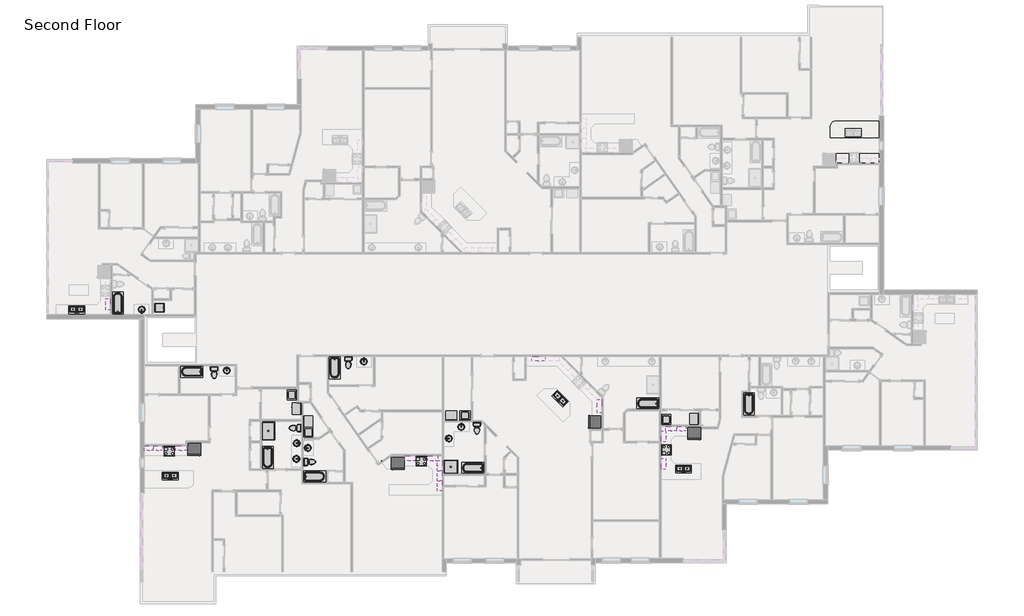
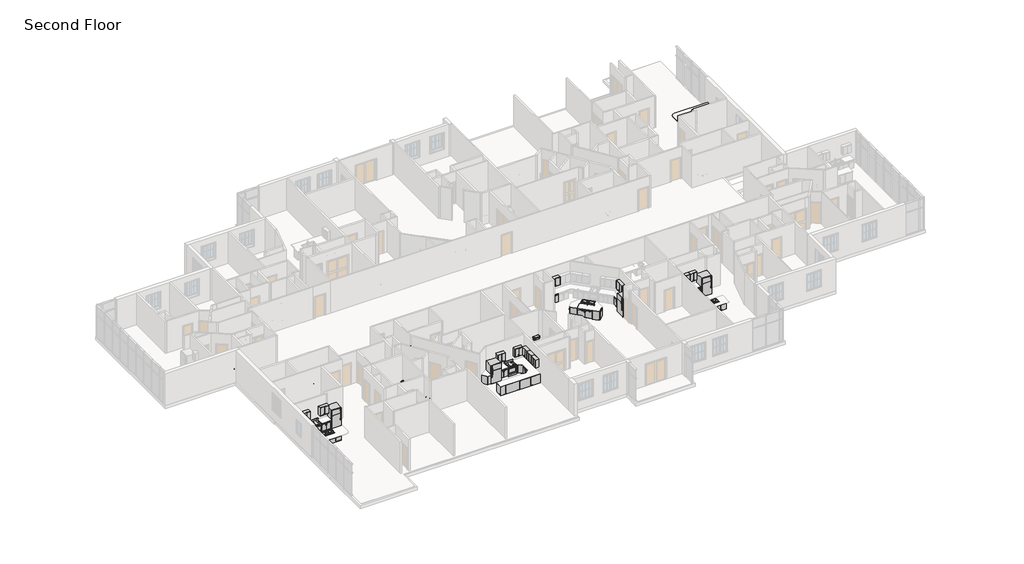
# One storey, part 14 of 17: 63 furniture elements, 27 flow terminals, 16 proxies, 2 slabs.
"""IFC4 building model written with IfcOpenShell, lengths in millimetres."""

from ifc_helpers import new_model, si_unit, point, frame, frame_2d, origin, place, context, project, spatial, polyline, circle_curve, trimmed, segment, composite_curve, outline, extrude, transform, mapped, element, save
from components import proxy_6b4a07a9, proxy_fbb4c072, proxy_93150df1, proxy_9109806d, proxy_718fa39f, proxy_f3e01b1d, flow_terminal_54cced83, flow_terminal_5dba0d75, flow_terminal_a53be723, flow_terminal_d49f872f, toilet_domestic_3d_toilet_domestic_3d_f7549cf7, toilet_domestic_3d_toilet_domestic_3d_183bbd19, tub_rectangular_3d_tub_rectangular_3d_72a4d900, tub_rectangular_3d_tub_rectangular_3d_cbc2c449, furniture_0fc2bd2a, furniture_337523c0, furniture_6e8794dd, furniture_07bc9410, furniture_6ace90bf, furniture_b282fead, furniture_6a014568, furniture_338da5bd, furniture_b74d3f52, furniture_7de88fd5, furniture_695a55eb, furniture_b6fbc004, furniture_b4094f2d, furniture_07c0da44, furniture_bfd559e3, base_cabinet_filler_base_cabinet_filler_dff9ed13, base_cabinet_filler_base_cabinet_filler_01d9e414, base_cabinet_filler_base_cabinet_filler_890d7b95, base_cabinet_filler_base_cabinet_filler_ec835e29, base_cabinet_filler_base_cabinet_filler_83579e99, base_cabinet_filler_base_cabinet_filler_783ad0b1, base_cabinet_filler_base_cabinet_filler_ca2a3ea1, furniture_de2c603d, furniture_a8c34398, furniture_09d05a5b, furniture_b1f16c95, furniture_c6a3367d, furniture_9117db5d, furniture_b34976c1

model = new_model("IFC4")

# Units and contexts
model_context = context("Model", 3, world=origin())
ifc_project = project(units=[si_unit("LENGTHUNIT", "METRE", prefix="MILLI")], contexts=[model_context])

# Site, building, storey
site = spatial("IfcSite", under=ifc_project)
building = spatial("IfcBuilding", under=site)
storey = spatial("IfcBuildingStorey", under=building, Name="Second Floor", Elevation=3048.0)

# Proxies
placement = place(None, origin())
proxy_shape = proxy_6b4a07a9(model_context)
element("IfcBuildingElementProxy", 1, Name="Dryer : 30\" x 25\" x 35\"", ObjectType="Dryer : 30\" x 25\" x 35\"", at=placement, inside=storey, context=model_context, shape_type="MappedRepresentation", body=[
    mapped(proxy_shape, transform((44173.5487851, -8537.825475, 3048.0), x_axis=(0.0, -1.0, 0.0), y_axis=(1.0, 0.0, 0.0), z_axis=(0.0, 0.0, 1.0))),
])
element("IfcBuildingElementProxy", 2, Name="Dryer : 30\" x 25\" x 35\"", ObjectType="Dryer : 30\" x 25\" x 35\"", at=placement, inside=storey, context=model_context, shape_type="MappedRepresentation", body=[
    mapped(proxy_shape, transform((28406.7740425, -8419.0812648, 3048.0), x_axis=(-1.0, 0.0, 0.0), y_axis=(0.0, -1.0, 0.0), z_axis=(0.0, 0.0, 1.0))),
])
element("IfcBuildingElementProxy", 3, Name="Dryer : 30\" x 25\" x 35\"", ObjectType="Dryer : 30\" x 25\" x 35\"", at=placement, inside=storey, context=model_context, shape_type="MappedRepresentation", body=[
    mapped(proxy_shape, transform((18584.1801376, -9524.4003876, 3048.0), x_axis=(0.0, 1.0, 0.0), y_axis=(-1.0, 0.0, 0.0), z_axis=(0.0, 0.0, 1.0))),
])
element("IfcBuildingElementProxy", 4, Name="Dryer : 30\" x 25\" x 35\"", ObjectType="Dryer : 30\" x 25\" x 35\"", at=placement, inside=storey, context=model_context, shape_type="MappedRepresentation", body=[
    mapped(proxy_shape, transform((17205.55813, -7837.3845163, 3048.0), x_axis=(0.0, -1.0, 0.0), y_axis=(1.0, 0.0, 0.0), z_axis=(0.0, 0.0, 1.0))),
])
proxy_2_shape = proxy_fbb4c072(model_context)
element("IfcBuildingElementProxy", 5, Name="Range : 30\" x 26\"", ObjectType="Range : 30\" x 26\"", at=placement, inside=storey, context=model_context, shape_type="MappedRepresentation", body=[
    mapped(proxy_2_shape, transform((8484.0058728, -11454.5493344, 3048.0), x_axis=(1.0, 0.0, 0.0), y_axis=(0.0, 1.0, 0.0), z_axis=(0.0, 0.0, 1.0))),
])
element("IfcBuildingElementProxy", 6, Name="Range : 30\" x 26\"", ObjectType="Range : 30\" x 26\"", at=placement, inside=storey, context=model_context, shape_type="MappedRepresentation", body=[
    mapped(proxy_2_shape, transform((25568.0760465, -12129.3236347, 3048.0), x_axis=(1.0, 0.0, 0.0), y_axis=(0.0, 1.0, 0.0), z_axis=(0.0, 0.0, 1.0))),
])
element("IfcBuildingElementProxy", 7, Name="Range : 30\" x 26\"", ObjectType="Range : 30\" x 26\"", at=placement, inside=storey, context=model_context, shape_type="MappedRepresentation", body=[
    mapped(proxy_2_shape, transform((42884.6470292, -11433.5876998, 3048.0), x_axis=(0.0, 1.0, 0.0), y_axis=(-1.0, 0.0, 0.0), z_axis=(0.0, 0.0, 1.0))),
])
proxy_3_shape = proxy_93150df1(model_context)
element("IfcBuildingElementProxy", 8, Name="Refrigerator : 35\" x 32\" LH", ObjectType="Refrigerator : 35\" x 32\" LH", at=placement, inside=storey, context=model_context, shape_type="MappedRepresentation", body=[
    mapped(proxy_3_shape, transform((24373.0696169, -11939.5714882, 3048.0), x_axis=(1.0, 0.0, 0.0), y_axis=(0.0, 1.0, 0.0), z_axis=(0.0, 0.0, 1.0))),
])
proxy_4_shape = proxy_9109806d(model_context)
element("IfcBuildingElementProxy", 9, Name="Refrigerator : 35\" x 32\" RH", ObjectType="Refrigerator : 35\" x 32\" RH", at=placement, inside=storey, context=model_context, shape_type="MappedRepresentation", body=[
    mapped(proxy_4_shape, transform((10565.2183728, -10998.1775997, 3048.0), x_axis=(1.0, 0.0, 0.0), y_axis=(0.0, 1.0, 0.0), z_axis=(0.0, 0.0, 1.0))),
])
element("IfcBuildingElementProxy", 10, Name="Refrigerator : 35\" x 32\" RH", ObjectType="Refrigerator : 35\" x 32\" RH", at=placement, inside=storey, context=model_context, shape_type="MappedRepresentation", body=[
    mapped(proxy_4_shape, transform((37739.4505062, -9160.9400492, 3048.0), x_axis=(-0.0020172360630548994, -0.9999979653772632, 0.0), y_axis=(0.9999979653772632, -0.0020172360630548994, 0.0), z_axis=(0.0, 0.0, 1.0))),
])
element("IfcBuildingElementProxy", 11, Name="Refrigerator : 35\" x 32\" RH", ObjectType="Refrigerator : 35\" x 32\" RH", at=placement, inside=storey, context=model_context, shape_type="MappedRepresentation", body=[
    mapped(proxy_4_shape, transform((44469.7001082, -9909.0410777, 3048.0), x_axis=(1.0, 0.0, 0.0), y_axis=(0.0, 1.0, 0.0), z_axis=(0.0, 0.0, 1.0))),
])
proxy_5_shape = proxy_718fa39f(model_context)
element("IfcBuildingElementProxy", 12, Name="Washer : 27\" x 25\" x 35\"", ObjectType="Washer : 27\" x 25\" x 35\"", at=placement, inside=storey, context=model_context, shape_type="MappedRepresentation", body=[
    mapped(proxy_5_shape, transform((42820.896594, -9415.6051683, 3048.0), x_axis=(0.0, 1.0, 0.0), y_axis=(-1.0, 0.0, 0.0), z_axis=(0.0, 0.0, 1.0))),
])
element("IfcBuildingElementProxy", 13, Name="Washer : 27\" x 25\" x 35\"", ObjectType="Washer : 27\" x 25\" x 35\"", at=placement, inside=storey, context=model_context, shape_type="MappedRepresentation", body=[
    mapped(proxy_5_shape, transform((29345.0797218, -8454.5927038, 3048.0), x_axis=(-1.0, 0.0, 0.0), y_axis=(0.0, -1.0, 0.0), z_axis=(0.0, 0.0, 1.0))),
])
element("IfcBuildingElementProxy", 14, Name="Washer : 27\" x 25\" x 35\"", ObjectType="Washer : 27\" x 25\" x 35\"", at=placement, inside=storey, context=model_context, shape_type="MappedRepresentation", body=[
    mapped(proxy_5_shape, transform((16924.7421343, -6896.1954628, 3048.0), x_axis=(0.0, -1.0, 0.0), y_axis=(1.0, 0.0, 0.0), z_axis=(0.0, 0.0, 1.0))),
])
element("IfcBuildingElementProxy", 15, Name="Washer : 27\" x 25\" x 35\"", ObjectType="Washer : 27\" x 25\" x 35\"", at=placement, inside=storey, context=model_context, shape_type="MappedRepresentation", body=[
    mapped(proxy_5_shape, transform((18548.6686985, -10291.5635078, 3048.0), x_axis=(0.0, 1.0, 0.0), y_axis=(-1.0, 0.0, 0.0), z_axis=(0.0, 0.0, 1.0))),
])
proxy_6_shape = proxy_f3e01b1d(model_context)
element("IfcBuildingElementProxy", 16, Name="Washer_Dryer_Combo : 24\"", ObjectType="Washer_Dryer_Combo : 24\"", at=placement, inside=storey, context=model_context, shape_type="MappedRepresentation", body=[
    mapped(proxy_6_shape, transform((7781.763642, -1399.896226, 3048.0), x_axis=(0.0, 1.0, 0.0), y_axis=(-1.0, 0.0, 0.0), z_axis=(0.0, 0.0, 1.0))),
])

# Flow terminals
flow_terminal_shape = flow_terminal_54cced83(model_context)
element("IfcFlowTerminal", 17, ObjectType="Shower Base-3D : 36\" x 36\"", at=placement, inside=storey, context=model_context, shape_type="MappedRepresentation", body=[
    mapped(flow_terminal_shape, transform((27964.2865862, -12199.1736347, 3048.0), x_axis=(-1.0, 0.0, 0.0), y_axis=(0.0, -1.0, 0.0), z_axis=(0.0, 0.0, 1.0))),
])
flow_terminal_2_shape = flow_terminal_5dba0d75(model_context)
element("IfcFlowTerminal", 18, ObjectType="Shower Base-3D : 48\" x 34\"", at=placement, inside=storey, context=model_context, shape_type="MappedRepresentation", body=[
    mapped(flow_terminal_2_shape, transform((15583.4691338, -9765.9826248, 3048.0), x_axis=(0.0, -1.0, 0.0), y_axis=(1.0, 0.0, 0.0), z_axis=(0.0, 0.0, 1.0))),
])
flow_terminal_3_shape = flow_terminal_a53be723(model_context)
element("IfcFlowTerminal", 19, ObjectType="Sink Kitchen-Double : 42\" x 21\"", at=placement, inside=storey, context=model_context, shape_type="MappedRepresentation", body=[
    mapped(flow_terminal_3_shape, transform((2610.3896329, -1539.4234679, 3048.0), x_axis=(-1.0, 0.0, 0.0), y_axis=(0.0, -1.0, 0.0), z_axis=(0.0, 0.0, 1.0))),
])
element("IfcFlowTerminal", 20, ObjectType="Sink Kitchen-Double : 42\" x 21\"", at=placement, inside=storey, context=model_context, shape_type="MappedRepresentation", body=[
    mapped(flow_terminal_3_shape, transform((8952.0802897, -12819.6612346, 3048.0), x_axis=(-1.0, 0.0, 0.0), y_axis=(0.0, -1.0, 0.0), z_axis=(0.0, 0.0, 1.0))),
])
element("IfcFlowTerminal", 21, ObjectType="Sink Kitchen-Double : 42\" x 21\"", at=placement, inside=storey, context=model_context, shape_type="MappedRepresentation", body=[
    mapped(flow_terminal_3_shape, transform((35369.4238071, -7586.7342025, 3048.0), x_axis=(-0.7071067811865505, 0.7071067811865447, 0.0), y_axis=(-0.7071067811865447, -0.7071067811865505, 0.0), z_axis=(0.0, 0.0, 1.0))),
])
element("IfcFlowTerminal", 22, ObjectType="Sink Kitchen-Double : 42\" x 21\"", at=placement, inside=storey, context=model_context, shape_type="MappedRepresentation", body=[
    mapped(flow_terminal_3_shape, transform((43757.5862697, -12345.6422987, 3048.0), x_axis=(-1.0, 0.0, 0.0), y_axis=(0.0, -1.0, 0.0), z_axis=(0.0, 0.0, 1.0))),
])
flow_terminal_4_shape = flow_terminal_d49f872f(model_context)
element("IfcFlowTerminal", 23, ObjectType="Sink Vanity-Round : 19\" x 19\"", at=placement, inside=storey, context=model_context, shape_type="MappedRepresentation", body=[
    mapped(flow_terminal_4_shape, transform((7095.9779114, -1446.5547276, 3048.0), x_axis=(-1.0, 0.0, 0.0), y_axis=(0.0, -1.0, 0.0), z_axis=(0.0, 0.0, 1.0))),
])
element("IfcFlowTerminal", 24, ObjectType="Sink Vanity-Round : 19\" x 19\"", at=placement, inside=storey, context=model_context, shape_type="MappedRepresentation", body=[
    mapped(flow_terminal_4_shape, transform((12671.2282401, -5751.7512482, 3048.0), x_axis=(1.0, 0.0, 0.0), y_axis=(0.0, 1.0, 0.0), z_axis=(0.0, 0.0, 1.0))),
])
element("IfcFlowTerminal", 25, ObjectType="Sink Vanity-Round : 19\" x 19\"", at=placement, inside=storey, context=model_context, shape_type="MappedRepresentation", body=[
    mapped(flow_terminal_4_shape, transform((17420.7936513, -10494.2975939, 3048.0), x_axis=(0.0, -1.0, 0.0), y_axis=(1.0, 0.0, 0.0), z_axis=(0.0, 0.0, 1.0))),
])
element("IfcFlowTerminal", 26, ObjectType="Sink Vanity-Round : 19\" x 19\"", at=placement, inside=storey, context=model_context, shape_type="MappedRepresentation", body=[
    mapped(flow_terminal_4_shape, transform((17409.016646, -11561.0975939, 3048.0), x_axis=(0.0, -1.0, 0.0), y_axis=(1.0, 0.0, 0.0), z_axis=(0.0, 0.0, 1.0))),
])
element("IfcFlowTerminal", 27, ObjectType="Sink Vanity-Round : 19\" x 19\"", at=placement, inside=storey, context=model_context, shape_type="MappedRepresentation", body=[
    mapped(flow_terminal_4_shape, transform((21972.1515274, -5140.3059377, 3048.0), x_axis=(1.0, 0.0, 0.0), y_axis=(0.0, 1.0, 0.0), z_axis=(0.0, 0.0, 1.0))),
])
element("IfcFlowTerminal", 28, ObjectType="Sink Vanity-Round : 19\" x 19\"", at=placement, inside=storey, context=model_context, shape_type="MappedRepresentation", body=[
    mapped(flow_terminal_4_shape, transform((27911.2708925, -10375.2194838, 3048.0), x_axis=(0.001247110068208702, 0.9999992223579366, 0.0), y_axis=(-0.9999992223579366, 0.001247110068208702, 0.0), z_axis=(0.0, 0.0, 1.0))),
])
element("IfcFlowTerminal", 29, ObjectType="Sink Vanity-Round : 19\" x 19\"", at=placement, inside=storey, context=model_context, shape_type="MappedRepresentation", body=[
    mapped(flow_terminal_4_shape, transform((28570.2652609, -9561.5358358, 3048.0), x_axis=(0.9999968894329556, -0.0024942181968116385, 0.0), y_axis=(0.0024942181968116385, 0.9999968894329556, 0.0), z_axis=(0.0, 0.0, 1.0))),
])
element("IfcFlowTerminal", 30, ObjectType="Sink Vanity-Round : 19\" x 19\"", at=placement, inside=storey, context=model_context, shape_type="MappedRepresentation", body=[
    mapped(flow_terminal_4_shape, transform((18352.0332752, -11016.4921873, 3048.0), x_axis=(0.0, 1.0, 0.0), y_axis=(-1.0, 0.0, 0.0), z_axis=(0.0, 0.0, 1.0))),
])
toilet_domestic_3d_toilet_domestic_3d_shape = toilet_domestic_3d_toilet_domestic_3d_f7549cf7(model_context)
toilet_domestic_3d_toilet_domestic_3d_2_shape = toilet_domestic_3d_toilet_domestic_3d_183bbd19(model_context)
element("IfcFlowTerminal", 31, ObjectType="Toilet-Domestic-3D : Toilet-Domestic-3D", at=placement, inside=storey, context=model_context, shape_type="MappedRepresentation", body=[
    mapped(toilet_domestic_3d_toilet_domestic_3d_shape, transform((11916.3561509, -5905.1826248, 3048.0), x_axis=(1.0, 0.0, 0.0), y_axis=(0.0, 1.0, 0.0), z_axis=(0.0, 0.0, 1.0))),
    mapped(toilet_domestic_3d_toilet_domestic_3d_2_shape, transform((11916.3561509, -5905.1826248, 3048.0), x_axis=(1.0, 0.0, 0.0), y_axis=(0.0, 1.0, 0.0), z_axis=(0.0, 0.0, 1.0))),
])
element("IfcFlowTerminal", 32, ObjectType="Toilet-Domestic-3D : Toilet-Domestic-3D", at=placement, inside=storey, context=model_context, shape_type="MappedRepresentation", body=[
    mapped(toilet_domestic_3d_toilet_domestic_3d_shape, transform((17301.7543863, -9562.7826248, 3048.0), x_axis=(0.0, -1.0, 0.0), y_axis=(1.0, 0.0, 0.0), z_axis=(0.0, 0.0, 1.0))),
    mapped(toilet_domestic_3d_toilet_domestic_3d_2_shape, transform((17301.7543863, -9562.7826248, 3048.0), x_axis=(0.0, -1.0, 0.0), y_axis=(1.0, 0.0, 0.0), z_axis=(0.0, 0.0, 1.0))),
])
element("IfcFlowTerminal", 33, ObjectType="Toilet-Domestic-3D : Toilet-Domestic-3D", at=placement, inside=storey, context=model_context, shape_type="MappedRepresentation", body=[
    mapped(toilet_domestic_3d_toilet_domestic_3d_shape, transform((18495.5543863, -11861.2719726, 3048.0), x_axis=(0.0, 1.0, 0.0), y_axis=(-1.0, 0.0, 0.0), z_axis=(0.0, 0.0, 1.0))),
    mapped(toilet_domestic_3d_toilet_domestic_3d_2_shape, transform((18495.5543863, -11861.2719726, 3048.0), x_axis=(0.0, 1.0, 0.0), y_axis=(-1.0, 0.0, 0.0), z_axis=(0.0, 0.0, 1.0))),
])
element("IfcFlowTerminal", 34, ObjectType="Toilet-Domestic-3D : Toilet-Domestic-3D", at=placement, inside=storey, context=model_context, shape_type="MappedRepresentation", body=[
    mapped(toilet_domestic_3d_toilet_domestic_3d_shape, transform((21010.1543863, -5232.0826248, 3048.0), x_axis=(1.0, 0.0, 0.0), y_axis=(0.0, 1.0, 0.0), z_axis=(0.0, 0.0, 1.0))),
    mapped(toilet_domestic_3d_toilet_domestic_3d_2_shape, transform((21010.1543863, -5232.0826248, 3048.0), x_axis=(1.0, 0.0, 0.0), y_axis=(0.0, 1.0, 0.0), z_axis=(0.0, 0.0, 1.0))),
])
element("IfcFlowTerminal", 35, ObjectType="Toilet-Domestic-3D : Toilet-Domestic-3D", at=placement, inside=storey, context=model_context, shape_type="MappedRepresentation", body=[
    mapped(toilet_domestic_3d_toilet_domestic_3d_shape, transform((29733.3816535, -9682.6542097, 3048.0), x_axis=(1.0, 0.0, 0.0), y_axis=(0.0, 1.0, 0.0), z_axis=(0.0, 0.0, 1.0))),
    mapped(toilet_domestic_3d_toilet_domestic_3d_2_shape, transform((29733.3816535, -9682.6542097, 3048.0), x_axis=(1.0, 0.0, 0.0), y_axis=(0.0, 1.0, 0.0), z_axis=(0.0, 0.0, 1.0))),
])
tub_rectangular_3d_tub_rectangular_3d_shape = tub_rectangular_3d_tub_rectangular_3d_72a4d900(model_context)
element("IfcFlowTerminal", 36, ObjectType="Tub-Rectangular-3D : Tub-Rectangular-3D", at=placement, inside=storey, context=model_context, shape_type="MappedRepresentation", body=[
    mapped(tub_rectangular_3d_tub_rectangular_3d_shape, transform((47733.9460269, -8284.6757706, 3048.0), x_axis=(0.0, -1.0, 0.0), y_axis=(1.0, 0.0, 0.0), z_axis=(0.0, 0.0, 1.0))),
])
element("IfcFlowTerminal", 37, ObjectType="Tub-Rectangular-3D : Tub-Rectangular-3D", at=placement, inside=storey, context=model_context, shape_type="MappedRepresentation", body=[
    mapped(tub_rectangular_3d_tub_rectangular_3d_shape, transform((19641.0094272, -5812.794765, 3048.0), x_axis=(0.0, -1.0, 0.0), y_axis=(1.0, 0.0, 0.0), z_axis=(0.0, 0.0, 1.0))),
])
element("IfcFlowTerminal", 38, ObjectType="Tub-Rectangular-3D : Tub-Rectangular-3D", at=placement, inside=storey, context=model_context, shape_type="MappedRepresentation", body=[
    mapped(tub_rectangular_3d_tub_rectangular_3d_shape, transform((19051.8674743, -13293.3204597, 3048.0), x_axis=(1.0, 0.0, 0.0), y_axis=(0.0, 1.0, 0.0), z_axis=(0.0, 0.0, 1.0))),
])
element("IfcFlowTerminal", 39, ObjectType="Tub-Rectangular-3D : Tub-Rectangular-3D", at=placement, inside=storey, context=model_context, shape_type="MappedRepresentation", body=[
    mapped(tub_rectangular_3d_tub_rectangular_3d_shape, transform((15100.67709, -11904.7523031, 3048.0), x_axis=(0.0, -1.0, 0.0), y_axis=(1.0, 0.0, 0.0), z_axis=(0.0, 0.0, 1.0))),
])
element("IfcFlowTerminal", 40, ObjectType="Tub-Rectangular-3D : Tub-Rectangular-3D", at=placement, inside=storey, context=model_context, shape_type="MappedRepresentation", body=[
    mapped(tub_rectangular_3d_tub_rectangular_3d_shape, transform((10041.086734, -5294.5871067, 3048.0), x_axis=(-1.0, 0.0, 0.0), y_axis=(0.0, -1.0, 0.0), z_axis=(0.0, 0.0, 1.0))),
])
tub_rectangular_3d_tub_rectangular_3d_2_shape = tub_rectangular_3d_tub_rectangular_3d_cbc2c449(model_context)
element("IfcFlowTerminal", 41, ObjectType="Tub-Rectangular-3D : Tub-Rectangular-3D", at=placement, inside=storey, context=model_context, shape_type="MappedRepresentation", body=[
    mapped(tub_rectangular_3d_tub_rectangular_3d_2_shape, transform((4937.8503923, -742.3159003, 3048.0), x_axis=(0.0, 1.0, 0.0), y_axis=(-1.0, 0.0, 0.0), z_axis=(0.0, 0.0, 1.0))),
])
element("IfcFlowTerminal", 42, ObjectType="Tub-Rectangular-3D : Tub-Rectangular-3D", at=placement, inside=storey, context=model_context, shape_type="MappedRepresentation", body=[
    mapped(tub_rectangular_3d_tub_rectangular_3d_2_shape, transform((29107.1010669, -12707.1736347, 3048.0), x_axis=(-1.0, 0.0, 0.0), y_axis=(0.0, -1.0, 0.0), z_axis=(0.0, 0.0, 1.0))),
])
element("IfcFlowTerminal", 43, ObjectType="Tub-Rectangular-3D : Tub-Rectangular-3D", at=placement, inside=storey, context=model_context, shape_type="MappedRepresentation", body=[
    mapped(tub_rectangular_3d_tub_rectangular_3d_2_shape, transform((40980.2940605, -8335.220689, 3048.0), x_axis=(-1.0, 0.0, 0.0), y_axis=(0.0, -1.0, 0.0), z_axis=(0.0, 0.0, 1.0))),
])

# Furniture
furniture_shape = furniture_0fc2bd2a(model_context)
element("IfcFurniture", 44, ObjectType="Base Cabinet-Single Door & Drawer : 15\"'", at=placement, inside=storey, context=model_context, shape_type="MappedRepresentation", body=[
    mapped(furniture_shape, transform((7393.028754, -13101.4066357, 3048.0), x_axis=(-1.0, 0.0, 0.0), y_axis=(0.0, -1.0, 0.0), z_axis=(0.0, 0.0, 1.0))),
])
furniture_2_shape = furniture_337523c0(model_context)
element("IfcFurniture", 45, ObjectType="Base Cabinet-Single Door & Drawer : 12\"", at=placement, inside=storey, context=model_context, shape_type="MappedRepresentation", body=[
    mapped(furniture_2_shape, transform((42224.2470292, -10500.4499949, 3048.0), x_axis=(0.0, -1.0, 0.0), y_axis=(1.0, 0.0, 0.0), z_axis=(0.0, 0.0, 1.0))),
])
furniture_3_shape = furniture_6e8794dd(model_context)
element("IfcFurniture", 46, ObjectType="Base Cabinet-Single Door & Drawer : 12\"", at=placement, inside=storey, context=model_context, shape_type="MappedRepresentation", body=[
    mapped(furniture_3_shape, transform((4880.7003923, -765.2085211, 3048.0), x_axis=(0.0, -1.0, 0.0), y_axis=(1.0, 0.0, 0.0), z_axis=(0.0, 0.0, 1.0))),
])
element("IfcFurniture", 47, ObjectType="Base Cabinet-Single Door & Drawer : 12\"", at=placement, inside=storey, context=model_context, shape_type="MappedRepresentation", body=[
    mapped(furniture_3_shape, transform((42224.2470292, -11604.7254047, 3048.0), x_axis=(0.0, 1.0, 0.0), y_axis=(-1.0, 0.0, 0.0), z_axis=(0.0, 0.0, 1.0))),
])
furniture_4_shape = furniture_07bc9410(model_context)
element("IfcFurniture", 48, ObjectType="Base Cabinet-Single Door & Drawer : 18\"", at=placement, inside=storey, context=model_context, shape_type="MappedRepresentation", body=[
    mapped(furniture_4_shape, transform((7423.2435778, -10772.1368662, 3048.0), x_axis=(-1.0, 0.0, 0.0), y_axis=(0.0, -1.0, 0.0), z_axis=(0.0, 0.0, 1.0))),
])
furniture_5_shape = furniture_6ace90bf(model_context)
element("IfcFurniture", 49, ObjectType="Base Cabinet-Single Door & Drawer : 18\"", at=placement, inside=storey, context=model_context, shape_type="MappedRepresentation", body=[
    mapped(furniture_5_shape, transform((9793.328754, -13101.4066357, 3048.0), x_axis=(-1.0, 0.0, 0.0), y_axis=(0.0, -1.0, 0.0), z_axis=(0.0, 0.0, 1.0))),
])
element("IfcFurniture", 50, ObjectType="Base Cabinet-Single Door & Drawer : 18\"", at=placement, inside=storey, context=model_context, shape_type="MappedRepresentation", body=[
    mapped(furniture_5_shape, transform((24038.1263728, -14082.7941728, 3048.0), x_axis=(-1.0, 0.0, 0.0), y_axis=(0.0, -1.0, 0.0), z_axis=(0.0, 0.0, 1.0))),
])
furniture_6_shape = furniture_b282fead(model_context)
element("IfcFurniture", 51, ObjectType="Base Cabinet-Single Door & Drawer : 21\"", at=placement, inside=storey, context=model_context, shape_type="MappedRepresentation", body=[
    mapped(furniture_6_shape, transform((44636.9347341, -12652.7876998, 3048.0), x_axis=(-1.0, 0.0, 0.0), y_axis=(0.0, -1.0, 0.0), z_axis=(0.0, 0.0, 1.0))),
])
furniture_7_shape = furniture_6a014568(model_context)
element("IfcFurniture", 52, ObjectType="Base Cabinet-Single Door & Drawer : 24\"", at=placement, inside=storey, context=model_context, shape_type="MappedRepresentation", body=[
    mapped(furniture_7_shape, transform((35343.4218314, -8452.6528289, 3048.0), x_axis=(0.7071067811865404, 0.7071067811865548, 0.0), y_axis=(-0.7071067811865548, 0.7071067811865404, 0.0), z_axis=(0.0, 0.0, 1.0))),
])
element("IfcFurniture", 53, ObjectType="Base Cabinet-Single Door & Drawer : 24\"", at=placement, inside=storey, context=model_context, shape_type="MappedRepresentation", body=[
    mapped(furniture_7_shape, transform((34507.8163602, -7564.0491249, 3048.0), x_axis=(-0.7071067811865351, -0.70710678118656, 0.0), y_axis=(0.70710678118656, -0.7071067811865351, 0.0), z_axis=(0.0, 0.0, 1.0))),
])
furniture_8_shape = furniture_338da5bd(model_context)
element("IfcFurniture", 54, ObjectType="Base Cabinet-Double Door & 2 Drawer : 30\"", at=placement, inside=storey, context=model_context, shape_type="MappedRepresentation", body=[
    mapped(furniture_8_shape, transform((7964.528754, -13101.4066357, 3048.0), x_axis=(-1.0, 0.0, 0.0), y_axis=(0.0, -1.0, 0.0), z_axis=(0.0, 0.0, 1.0))),
])
element("IfcFurniture", 55, ObjectType="Base Cabinet-Double Door & 2 Drawer : 30\"", at=placement, inside=storey, context=model_context, shape_type="MappedRepresentation", body=[
    mapped(furniture_8_shape, transform((27373.7365862, -12755.9564679, 3048.0), x_axis=(0.0, -1.0, 0.0), y_axis=(1.0, 0.0, 0.0), z_axis=(0.0, 0.0, 1.0))),
])
element("IfcFurniture", 56, ObjectType="Base Cabinet-Double Door & 2 Drawer : 30\"", at=placement, inside=storey, context=model_context, shape_type="MappedRepresentation", body=[
    mapped(furniture_8_shape, transform((25173.481912, -11468.9236347, 3048.0), x_axis=(1.0, 0.0, 0.0), y_axis=(0.0, 1.0, 0.0), z_axis=(0.0, 0.0, 1.0))),
])
furniture_9_shape = furniture_b74d3f52(model_context)
element("IfcFurniture", 57, ObjectType="Base Cabinet-Double Door & 2 Drawer : 33\"", at=placement, inside=storey, context=model_context, shape_type="MappedRepresentation", body=[
    mapped(furniture_9_shape, transform((8083.6435778, -10772.1368662, 3048.0), x_axis=(-1.0, 0.0, 0.0), y_axis=(0.0, -1.0, 0.0), z_axis=(0.0, 0.0, 1.0))),
])
furniture_10_shape = furniture_7de88fd5(model_context)
element("IfcFurniture", 58, ObjectType="Base Cabinet-Double Door & 2 Drawer : 33\"", at=placement, inside=storey, context=model_context, shape_type="MappedRepresentation", body=[
    mapped(furniture_10_shape, transform((9646.3681679, -10772.1368662, 3048.0), x_axis=(1.0, 0.0, 0.0), y_axis=(0.0, 1.0, 0.0), z_axis=(0.0, 0.0, 1.0))),
])
element("IfcFurniture", 59, ObjectType="Base Cabinet-Double Door & 2 Drawer : 33\"", at=placement, inside=storey, context=model_context, shape_type="MappedRepresentation", body=[
    mapped(furniture_10_shape, transform((43539.0093243, -9452.3876998, 3048.0), x_axis=(1.0, 0.0, 0.0), y_axis=(0.0, 1.0, 0.0), z_axis=(0.0, 0.0, 1.0))),
])
furniture_11_shape = furniture_695a55eb(model_context)
element("IfcFurniture", 60, ObjectType="Base Cabinet-Double Door & 2 Drawer : 36\"", at=placement, inside=storey, context=model_context, shape_type="MappedRepresentation", body=[
    mapped(furniture_11_shape, transform((1661.5626874, -1846.568869, 3048.0), x_axis=(1.0, 0.0, 0.0), y_axis=(0.0, 1.0, 0.0), z_axis=(0.0, 0.0, 1.0))),
])
element("IfcFurniture", 61, ObjectType="Base Cabinet-Double Door & 2 Drawer : 36\"", at=placement, inside=storey, context=model_context, shape_type="MappedRepresentation", body=[
    mapped(furniture_11_shape, transform((2575.9626874, -1846.568869, 3048.0), x_axis=(1.0, 0.0, 0.0), y_axis=(0.0, 1.0, 0.0), z_axis=(0.0, 0.0, 1.0))),
])
element("IfcFurniture", 62, ObjectType="Base Cabinet-Double Door & 2 Drawer : 36\"", at=placement, inside=storey, context=model_context, shape_type="MappedRepresentation", body=[
    mapped(furniture_11_shape, transform((3490.3626874, -1846.568869, 3048.0), x_axis=(1.0, 0.0, 0.0), y_axis=(0.0, 1.0, 0.0), z_axis=(0.0, 0.0, 1.0))),
])
furniture_12_shape = furniture_b6fbc004(model_context)
element("IfcFurniture", 63, ObjectType="Base Cabinet-Double Door & 2 Drawer : 36\"", at=placement, inside=storey, context=model_context, shape_type="MappedRepresentation", body=[
    mapped(furniture_12_shape, transform((33534.2589917, -4708.5417963, 3048.0), x_axis=(1.0, 0.0, 0.0), y_axis=(0.0, 1.0, 0.0), z_axis=(0.0, 0.0, 1.0))),
])
element("IfcFurniture", 64, ObjectType="Base Cabinet-Double Door & 2 Drawer : 36\"", at=placement, inside=storey, context=model_context, shape_type="MappedRepresentation", body=[
    mapped(furniture_12_shape, transform((38191.5400155, -8246.5337163, 3048.0), x_axis=(0.0, -1.0, 0.0), y_axis=(1.0, 0.0, 0.0), z_axis=(0.0, 0.0, 1.0))),
])
furniture_13_shape = furniture_b4094f2d(model_context)
element("IfcFurniture", 65, ObjectType="Base Cabinet-Double Door & 2 Drawer : 39\"", at=placement, inside=storey, context=model_context, shape_type="MappedRepresentation", body=[
    mapped(furniture_13_shape, transform((25982.7742911, -14082.7941728, 3048.0), x_axis=(-1.0, 0.0, 0.0), y_axis=(0.0, -1.0, 0.0), z_axis=(0.0, 0.0, 1.0))),
])
furniture_14_shape = furniture_07c0da44(model_context)
element("IfcFurniture", 66, ObjectType="Base Cabinet-Double Door & 2 Drawer : 48\"", at=placement, inside=storey, context=model_context, shape_type="MappedRepresentation", body=[
    mapped(furniture_14_shape, transform((8955.128754, -13101.4066357, 3048.0), x_axis=(-1.0, 0.0, 0.0), y_axis=(0.0, -1.0, 0.0), z_axis=(0.0, 0.0, 1.0))),
])
element("IfcFurniture", 67, ObjectType="Base Cabinet-Double Door & 2 Drawer : 48\"", at=placement, inside=storey, context=model_context, shape_type="MappedRepresentation", body=[
    mapped(furniture_14_shape, transform((24876.3263728, -14082.7941728, 3048.0), x_axis=(-1.0, 0.0, 0.0), y_axis=(0.0, -1.0, 0.0), z_axis=(0.0, 0.0, 1.0))),
])
element("IfcFurniture", 68, ObjectType="Base Cabinet-Double Door & 2 Drawer : 48\"", at=placement, inside=storey, context=model_context, shape_type="MappedRepresentation", body=[
    mapped(furniture_14_shape, transform((35154.3948009, -7806.0743882, 3048.0), x_axis=(-0.7071067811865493, 0.7071067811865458, 0.0), y_axis=(-0.7071067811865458, -0.7071067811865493, 0.0), z_axis=(0.0, 0.0, 1.0))),
])
element("IfcFurniture", 69, ObjectType="Base Cabinet-Double Door & 2 Drawer : 48\"", at=placement, inside=storey, context=model_context, shape_type="MappedRepresentation", body=[
    mapped(furniture_14_shape, transform((35127.8956845, -7779.5752718, 3048.0), x_axis=(0.7071067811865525, -0.7071067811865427, 0.0), y_axis=(0.7071067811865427, 0.7071067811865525, 0.0), z_axis=(0.0, 0.0, 1.0))),
])
element("IfcFurniture", 70, ObjectType="Base Cabinet-Double Door & 2 Drawer : 48\"", at=placement, inside=storey, context=model_context, shape_type="MappedRepresentation", body=[
    mapped(furniture_14_shape, transform((43760.6347341, -12652.7876998, 3048.0), x_axis=(-1.0, 0.0, 0.0), y_axis=(0.0, -1.0, 0.0), z_axis=(0.0, 0.0, 1.0))),
])
furniture_15_shape = furniture_bfd559e3(model_context)
element("IfcFurniture", 71, ObjectType="Base Cabinet-Corner Unit-Angled : 36\"", at=placement, inside=storey, context=model_context, shape_type="MappedRepresentation", body=[
    mapped(furniture_15_shape, transform((4880.7003923, -1319.8311641, 3048.0), x_axis=(0.0, -1.0, 0.0), y_axis=(1.0, 0.0, 0.0), z_axis=(0.0, 0.0, 1.0))),
])
element("IfcFurniture", 72, ObjectType="Base Cabinet-Corner Unit-Angled : 36\"", at=placement, inside=storey, context=model_context, shape_type="MappedRepresentation", body=[
    mapped(furniture_15_shape, transform((27373.7365862, -13556.0564679, 3048.0), x_axis=(0.0, -1.0, 0.0), y_axis=(1.0, 0.0, 0.0), z_axis=(0.0, 0.0, 1.0))),
])
element("IfcFurniture", 73, ObjectType="Base Cabinet-Corner Unit-Angled : 36\"", at=placement, inside=storey, context=model_context, shape_type="MappedRepresentation", body=[
    mapped(furniture_15_shape, transform((26846.9988812, -11468.9236347, 3048.0), x_axis=(1.0, 0.0, 0.0), y_axis=(0.0, 1.0, 0.0), z_axis=(0.0, 0.0, 1.0))),
])
element("IfcFurniture", 74, ObjectType="Base Cabinet-Corner Unit-Angled : 36\"", at=placement, inside=storey, context=model_context, shape_type="MappedRepresentation", body=[
    mapped(furniture_15_shape, transform((42224.2470292, -9979.1254047, 3048.0), x_axis=(0.0, 1.0, 0.0), y_axis=(-1.0, 0.0, 0.0), z_axis=(0.0, 0.0, 1.0))),
])
element("IfcFurniture", 75, ObjectType="Base Cabinet-Corner Unit-Angled : 36\"", at=placement, inside=storey, context=model_context, shape_type="MappedRepresentation", body=[
    mapped(furniture_15_shape, transform((42744.6347341, -12652.7876998, 3048.0), x_axis=(-1.0, 0.0, 0.0), y_axis=(0.0, -1.0, 0.0), z_axis=(0.0, 0.0, 1.0))),
])
base_cabinet_filler_base_cabinet_filler_shape = base_cabinet_filler_base_cabinet_filler_dff9ed13(model_context)
element("IfcFurniture", 76, ObjectType="Base Cabinet-Filler : Base Cabinet-Filler", at=placement, inside=storey, context=model_context, shape_type="MappedRepresentation", body=[
    mapped(base_cabinet_filler_base_cabinet_filler_shape, transform((7620.7181679, -10772.1368662, 3048.0), x_axis=(1.0, 0.0, 0.0), y_axis=(0.0, 1.0, 0.0), z_axis=(0.0, 0.0, 1.0))),
])
element("IfcFurniture", 77, ObjectType="Base Cabinet-Filler : Base Cabinet-Filler", at=placement, inside=storey, context=model_context, shape_type="MappedRepresentation", body=[
    mapped(base_cabinet_filler_base_cabinet_filler_shape, transform((27373.7365862, -13143.3064679, 3048.0), x_axis=(0.0, -1.0, 0.0), y_axis=(1.0, 0.0, 0.0), z_axis=(0.0, 0.0, 1.0))),
])
base_cabinet_filler_base_cabinet_filler_2_shape = base_cabinet_filler_base_cabinet_filler_01d9e414(model_context)
element("IfcFurniture", 78, ObjectType="Base Cabinet-Filler : Base Cabinet-Filler", at=placement, inside=storey, context=model_context, shape_type="MappedRepresentation", body=[
    mapped(base_cabinet_filler_base_cabinet_filler_2_shape, transform((10086.8994179, -10772.1368662, 3048.0), x_axis=(1.0, 0.0, 0.0), y_axis=(0.0, 1.0, 0.0), z_axis=(0.0, 0.0, 1.0))),
])
base_cabinet_filler_base_cabinet_filler_3_shape = base_cabinet_filler_base_cabinet_filler_890d7b95(model_context)
element("IfcFurniture", 79, ObjectType="Base Cabinet-Filler : Base Cabinet-Filler", at=placement, inside=storey, context=model_context, shape_type="MappedRepresentation", body=[
    mapped(base_cabinet_filler_base_cabinet_filler_3_shape, transform((26375.9686114, -11468.9236347, 3048.0), x_axis=(1.0, 0.0, 0.0), y_axis=(0.0, 1.0, 0.0), z_axis=(0.0, 0.0, 1.0))),
])
base_cabinet_filler_base_cabinet_filler_4_shape = base_cabinet_filler_base_cabinet_filler_ec835e29(model_context)
element("IfcFurniture", 80, ObjectType="Base Cabinet-Filler : Base Cabinet-Filler", at=placement, inside=storey, context=model_context, shape_type="MappedRepresentation", body=[
    mapped(base_cabinet_filler_base_cabinet_filler_4_shape, transform((27373.7365862, -12369.7711988, 3048.0), x_axis=(0.0, -1.0, 0.0), y_axis=(1.0, 0.0, 0.0), z_axis=(0.0, 0.0, 1.0))),
])
base_cabinet_filler_base_cabinet_filler_5_shape = base_cabinet_filler_base_cabinet_filler_83579e99(model_context)
element("IfcFurniture", 81, ObjectType="Base Cabinet-Filler : Base Cabinet-Filler", at=placement, inside=storey, context=model_context, shape_type="MappedRepresentation", body=[
    mapped(base_cabinet_filler_base_cabinet_filler_5_shape, transform((43985.4608638, -9452.3876998, 3048.0), x_axis=(1.0, 0.0, 0.0), y_axis=(0.0, 1.0, 0.0), z_axis=(0.0, 0.0, 1.0))),
])
base_cabinet_filler_base_cabinet_filler_6_shape = base_cabinet_filler_base_cabinet_filler_783ad0b1(model_context)
element("IfcFurniture", 82, ObjectType="Base Cabinet-Filler : Base Cabinet-Filler", at=placement, inside=storey, context=model_context, shape_type="MappedRepresentation", body=[
    mapped(base_cabinet_filler_base_cabinet_filler_6_shape, transform((23755.8937619, -11708.3436972, 3048.0), x_axis=(1.0, 0.0, 0.0), y_axis=(0.0, 1.0, 0.0), z_axis=(0.0, 0.0, 1.0))),
])
base_cabinet_filler_base_cabinet_filler_7_shape = base_cabinet_filler_base_cabinet_filler_ca2a3ea1(model_context)
element("IfcFurniture", 83, ObjectType="Base Cabinet-Filler : Base Cabinet-Filler", at=placement, inside=storey, context=model_context, shape_type="MappedRepresentation", body=[
    mapped(base_cabinet_filler_base_cabinet_filler_7_shape, transform((23926.7430816, -11693.9911948, 3048.0), x_axis=(0.5735764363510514, -0.8191520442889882, 0.0), y_axis=(0.8191520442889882, 0.5735764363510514, 0.0), z_axis=(0.0, 0.0, 1.0))),
])
furniture_16_shape = furniture_de2c603d(model_context)
element("IfcFurniture", 84, ObjectType="Upper Cabinet-Double Door-Wall : 24\"", at=placement, inside=storey, context=model_context, shape_type="MappedRepresentation", body=[
    mapped(furniture_16_shape, transform((7516.0292787, -10717.9493344, 3048.0), x_axis=(-1.0, 0.0, 0.0), y_axis=(0.0, -1.0, 0.0), z_axis=(0.0, 0.0, 1.0))),
])
element("IfcFurniture", 85, ObjectType="Upper Cabinet-Double Door-Wall : 24\"", at=placement, inside=storey, context=model_context, shape_type="MappedRepresentation", body=[
    mapped(furniture_16_shape, transform((8125.6292787, -10717.9493344, 3048.0), x_axis=(-1.0, 0.0, 0.0), y_axis=(0.0, -1.0, 0.0), z_axis=(0.0, 0.0, 1.0))),
])
element("IfcFurniture", 86, ObjectType="Upper Cabinet-Double Door-Wall : 24\"", at=placement, inside=storey, context=model_context, shape_type="MappedRepresentation", body=[
    mapped(furniture_16_shape, transform((43625.618192, -9395.2376998, 3048.0), x_axis=(-1.0, 0.0, 0.0), y_axis=(0.0, -1.0, 0.0), z_axis=(0.0, 0.0, 1.0))),
])
furniture_17_shape = furniture_a8c34398(model_context)
element("IfcFurniture", 87, ObjectType="Upper Cabinet-Double Door-Wall : 27\"", at=placement, inside=storey, context=model_context, shape_type="MappedRepresentation", body=[
    mapped(furniture_17_shape, transform((25225.457749, -11411.7736347, 3048.0), x_axis=(-1.0, 0.0, 0.0), y_axis=(0.0, -1.0, 0.0), z_axis=(0.0, 0.0, 1.0))),
])
element("IfcFurniture", 88, ObjectType="Upper Cabinet-Double Door-Wall : 27\"", at=placement, inside=storey, context=model_context, shape_type="MappedRepresentation", body=[
    mapped(furniture_17_shape, transform((26755.807749, -11411.7736347, 3048.0), x_axis=(-1.0, 0.0, 0.0), y_axis=(0.0, -1.0, 0.0), z_axis=(0.0, 0.0, 1.0))),
])
element("IfcFurniture", 89, ObjectType="Upper Cabinet-Double Door-Wall : 27\"", at=placement, inside=storey, context=model_context, shape_type="MappedRepresentation", body=[
    mapped(furniture_17_shape, transform((27430.8865862, -12146.3947975, 3048.0), x_axis=(0.0, 1.0, 0.0), y_axis=(-1.0, 0.0, 0.0), z_axis=(0.0, 0.0, 1.0))),
])
element("IfcFurniture", 90, ObjectType="Upper Cabinet-Double Door-Wall : 27\"", at=placement, inside=storey, context=model_context, shape_type="MappedRepresentation", body=[
    mapped(furniture_17_shape, transform((27430.8865862, -12832.1947975, 3048.0), x_axis=(0.0, 1.0, 0.0), y_axis=(-1.0, 0.0, 0.0), z_axis=(0.0, 0.0, 1.0))),
])
furniture_18_shape = furniture_09d05a5b(model_context)
element("IfcFurniture", 91, ObjectType="Upper Cabinet-Double Door-Wall : 27\"", at=placement, inside=storey, context=model_context, shape_type="MappedRepresentation", body=[
    mapped(furniture_18_shape, transform((27430.8865862, -13458.4524719, 3048.0), x_axis=(0.0, -1.0, 0.0), y_axis=(1.0, 0.0, 0.0), z_axis=(0.0, 0.0, 1.0))),
])
furniture_19_shape = furniture_b1f16c95(model_context)
element("IfcFurniture", 92, ObjectType="Upper Cabinet-Double Door-Wall : 30\"", at=placement, inside=storey, context=model_context, shape_type="MappedRepresentation", body=[
    mapped(furniture_19_shape, transform((4937.8503923, -1190.5400318, 3048.0), x_axis=(0.0, 1.0, 0.0), y_axis=(-1.0, 0.0, 0.0), z_axis=(0.0, 0.0, 1.0))),
])
element("IfcFurniture", 93, ObjectType="Upper Cabinet-Double Door-Wall : 30\"", at=placement, inside=storey, context=model_context, shape_type="MappedRepresentation", body=[
    mapped(furniture_19_shape, transform((9707.5770356, -10717.9493344, 3048.0), x_axis=(-1.0, 0.0, 0.0), y_axis=(0.0, -1.0, 0.0), z_axis=(0.0, 0.0, 1.0))),
])
element("IfcFurniture", 94, ObjectType="Upper Cabinet-Double Door-Wall : 30\"", at=placement, inside=storey, context=model_context, shape_type="MappedRepresentation", body=[
    mapped(furniture_19_shape, transform((42939.818192, -9395.2376998, 3048.0), x_axis=(-1.0, 0.0, 0.0), y_axis=(0.0, -1.0, 0.0), z_axis=(0.0, 0.0, 1.0))),
])
element("IfcFurniture", 95, ObjectType="Upper Cabinet-Double Door-Wall : 30\"", at=placement, inside=storey, context=model_context, shape_type="MappedRepresentation", body=[
    mapped(furniture_19_shape, transform((42167.0970292, -10108.416537, 3048.0), x_axis=(0.0, -1.0, 0.0), y_axis=(1.0, 0.0, 0.0), z_axis=(0.0, 0.0, 1.0))),
])
element("IfcFurniture", 96, ObjectType="Upper Cabinet-Double Door-Wall : 30\"", at=placement, inside=storey, context=model_context, shape_type="MappedRepresentation", body=[
    mapped(furniture_19_shape, transform((42167.0970292, -11960.618458, 3048.0), x_axis=(0.0, -1.0, 0.0), y_axis=(1.0, 0.0, 0.0), z_axis=(0.0, 0.0, 1.0))),
])
furniture_20_shape = furniture_c6a3367d(model_context)
element("IfcFurniture", 97, ObjectType="Upper Cabinet-Double Door-Wall : 36\"", at=placement, inside=storey, context=model_context, shape_type="MappedRepresentation", body=[
    mapped(furniture_20_shape, transform((38253.8005062, -8111.7005925, 3048.0), x_axis=(0.0, 1.0, 0.0), y_axis=(-1.0, 0.0, 0.0), z_axis=(0.0, 0.0, 1.0))),
])
element("IfcFurniture", 98, ObjectType="Upper Cabinet-Double Door-Wall : 36\"", at=placement, inside=storey, context=model_context, shape_type="MappedRepresentation", body=[
    mapped(furniture_20_shape, transform((33938.6340356, -4651.3917963, 3048.0), x_axis=(-1.0, 0.0, 0.0), y_axis=(0.0, -1.0, 0.0), z_axis=(0.0, 0.0, 1.0))),
])
furniture_21_shape = furniture_9117db5d(model_context)
element("IfcFurniture", 99, ObjectType="Vanity Cabinet-Double Door Sink Unit : 39\"", at=placement, inside=storey, context=model_context, shape_type="MappedRepresentation", body=[
    mapped(furniture_21_shape, transform((7018.0638758, -1846.568869, 3048.0), x_axis=(-1.0, 0.0, 0.0), y_axis=(0.0, -1.0, 0.0), z_axis=(0.0, 0.0, 1.0))),
])
element("IfcFurniture", 100, ObjectType="Vanity Cabinet-Double Door Sink Unit : 39\"", at=placement, inside=storey, context=model_context, shape_type="MappedRepresentation", body=[
    mapped(furniture_21_shape, transform((12749.1422757, -5351.7371067, 3048.0), x_axis=(1.0, 0.0, 0.0), y_axis=(0.0, 1.0, 0.0), z_axis=(0.0, 0.0, 1.0))),
])
element("IfcFurniture", 101, ObjectType="Vanity Cabinet-Double Door Sink Unit : 39\"", at=placement, inside=storey, context=model_context, shape_type="MappedRepresentation", body=[
    mapped(furniture_21_shape, transform((22050.065563, -4740.2917963, 3048.0), x_axis=(1.0, 0.0, 0.0), y_axis=(0.0, 1.0, 0.0), z_axis=(0.0, 0.0, 1.0))),
])
element("IfcFurniture", 102, ObjectType="Vanity Cabinet-Double Door Sink Unit : 39\"", at=placement, inside=storey, context=model_context, shape_type="MappedRepresentation", body=[
    mapped(furniture_21_shape, transform((17952.0191338, -10938.5781517, 3048.0), x_axis=(0.0, 1.0, 0.0), y_axis=(-1.0, 0.0, 0.0), z_axis=(0.0, 0.0, 1.0))),
])
furniture_22_shape = furniture_b34976c1(model_context)
element("IfcFurniture", 103, ObjectType="Vanity Cabinet-Double Door Sink Unit : 42\"", at=placement, inside=storey, context=model_context, shape_type="MappedRepresentation", body=[
    mapped(furniture_22_shape, transform((17818.6691338, -11639.0116295, 3048.0), x_axis=(0.0, -1.0, 0.0), y_axis=(1.0, 0.0, 0.0), z_axis=(0.0, 0.0, 1.0))),
])
element("IfcFurniture", 104, ObjectType="Vanity Cabinet-Double Door Sink Unit : 42\"", at=placement, inside=storey, context=model_context, shape_type="MappedRepresentation", body=[
    mapped(furniture_22_shape, transform((17818.6691338, -10572.2116295, 3048.0), x_axis=(0.0, -1.0, 0.0), y_axis=(1.0, 0.0, 0.0), z_axis=(0.0, 0.0, 1.0))),
])
element("IfcFurniture", 105, ObjectType="Vanity Cabinet-Double Door Sink Unit : 42\"", at=placement, inside=storey, context=model_context, shape_type="MappedRepresentation", body=[
    mapped(furniture_22_shape, transform((28649.2008168, -9152.0789569, 3048.0), x_axis=(0.9999968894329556, -0.0024942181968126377, 0.0), y_axis=(0.0024942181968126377, 0.9999968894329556, 0.0), z_axis=(0.0, 0.0, 1.0))),
])
element("IfcFurniture", 106, ObjectType="Vanity Cabinet-Double Door Sink Unit : 42\"", at=placement, inside=storey, context=model_context, shape_type="MappedRepresentation", body=[
    mapped(furniture_22_shape, transform((27513.4928868, -10296.8093142, 3048.0), x_axis=(0.0012471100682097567, 0.9999992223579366, 0.0), y_axis=(-0.9999992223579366, 0.0012471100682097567, 0.0), z_axis=(0.0, 0.0, 1.0))),
])

# Slabs
element("IfcSlab", 107, ObjectType="Marble", at=placement, inside=storey, context=model_context, shape_type="SweptSolid", body=[
    extrude(outline(composite_curve([segment(polyline([(57019.8087704, 10137.3521517), (53701.5482574, 10137.3521517), (53701.5482574, 10955.8982425)]), True, "CONTINUOUS"), segment(trimmed(circle_curve(frame_2d((54006.3482574, 10955.8982425)), 304.8), [point((53701.5482574, 10955.8982425))], [point((54010.0389834, 11260.6758968))], False, "CARTESIAN"), True, "CONTINUOUS"), segment(polyline([(54010.0389834, 11260.6758968), (57019.8087704, 11260.6758968), (57019.8087704, 10137.3521517)]), True, "CONTINUOUS")], self_intersect=False), holes=[polyline([(54720.3633372, 10733.4565303), (54720.3633372, 10206.1240109), (55788.1332258, 10206.1240109), (55788.1332258, 10733.4565303), (54720.3633372, 10733.4565303)])]), frame((0.0, 0.0, 3924.3), z_axis=(0.0, 0.0, 1.0), x_axis=(1.0, 0.0, 0.0)), (0.0, 0.0, 1.0), 38.1),
])
element("IfcSlab", 108, ObjectType="Marble", at=placement, inside=storey, context=model_context, shape_type="SweptSolid", body=[
    extrude(outline(polyline([(54063.0860135, 9070.6542414), (54944.1485135, 9070.6542414), (54944.1485135, 8444.9667096), (54063.0860135, 8444.9667096), (54063.0860135, 9070.6542414)])), frame((0.0, 0.0, 3924.3), z_axis=(0.0, 0.0, 1.0), x_axis=(1.0, 0.0, 0.0)), (0.0, 0.0, 1.0), 38.1),
    extrude(outline(polyline([(55706.1485135, 9070.6542414), (57014.2485135, 9070.6542414), (57014.2485135, 8422.9542414), (55706.1485135, 8422.9542414), (55706.1485135, 9070.6542414)])), frame((0.0, 0.0, 3924.3), z_axis=(0.0, 0.0, 1.0), x_axis=(1.0, 0.0, 0.0)), (0.0, 0.0, 1.0), 38.1),
])

save(model, "model.ifc")
